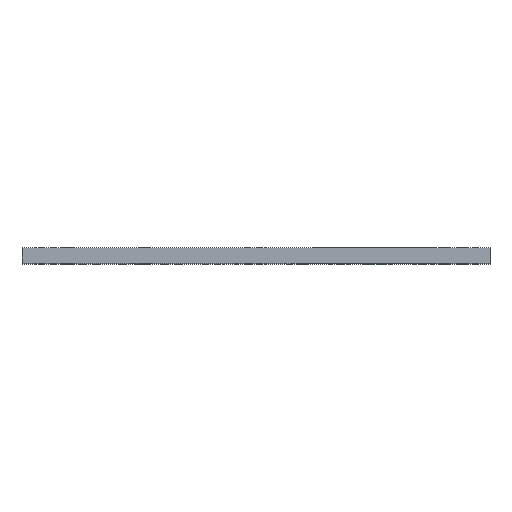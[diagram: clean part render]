
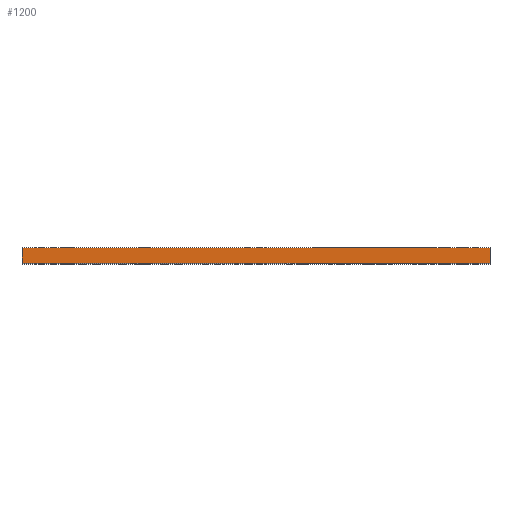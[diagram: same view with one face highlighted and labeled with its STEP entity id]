
A CAD part, top view. The second image highlights one B-rep face of the part: STEP entity #1200.
In plain terms, the highlighted planar face has unit normal (0, 0, 1).
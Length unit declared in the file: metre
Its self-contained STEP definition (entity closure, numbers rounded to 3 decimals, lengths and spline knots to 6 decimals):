
#63=LINE('',#1852,#103);
#80=LINE('',#1942,#120);
#88=LINE('',#2055,#128);
#90=LINE('',#2059,#130);
#103=VECTOR('',#1490,1.);
#120=VECTOR('',#1563,1.);
#128=VECTOR('',#1671,1.);
#130=VECTOR('',#1677,1.);
#277=ORIENTED_EDGE('',*,*,#485,.T.);
#278=ORIENTED_EDGE('',*,*,#542,.F.);
#279=ORIENTED_EDGE('',*,*,#441,.F.);
#280=ORIENTED_EDGE('',*,*,#544,.T.);
#441=EDGE_CURVE('',#579,#580,#63,.T.);
#485=EDGE_CURVE('',#624,#622,#80,.T.);
#542=EDGE_CURVE('',#580,#622,#88,.T.);
#544=EDGE_CURVE('',#579,#624,#90,.T.);
#579=VERTEX_POINT('',#1853);
#580=VERTEX_POINT('',#1854);
#622=VERTEX_POINT('',#1940);
#624=VERTEX_POINT('',#1943);
#876=EDGE_LOOP('',(#277,#278,#279,#280));
#1078=FACE_BOUND('',#876,.T.);
#1186=PLANE('',#1384);
#1200=ADVANCED_FACE('',(#1078),#1186,.F.);
#1384=AXIS2_PLACEMENT_3D('',#2060,#1678,#1679);
#1490=DIRECTION('',(1.,0.,0.));
#1563=DIRECTION('',(1.,0.,0.));
#1671=DIRECTION('',(0.,-1.,0.));
#1677=DIRECTION('',(0.,-1.,0.));
#1678=DIRECTION('',(0.,0.,-1.));
#1679=DIRECTION('',(-1.,0.,0.));
#1852=CARTESIAN_POINT('',(0.079109,0.004,0.06011));
#1853=CARTESIAN_POINT('',(-0.043891,0.004,0.06011));
#1854=CARTESIAN_POINT('',(0.079109,0.004,0.06011));
#1940=CARTESIAN_POINT('',(0.079109,0.,0.06011));
#1942=CARTESIAN_POINT('',(-0.039891,0.,0.06011));
#1943=CARTESIAN_POINT('',(-0.043891,0.,0.06011));
#2055=CARTESIAN_POINT('',(0.079109,0.004,0.06011));
#2059=CARTESIAN_POINT('',(-0.043891,0.004,0.06011));
#2060=CARTESIAN_POINT('',(-0.039891,0.004,0.06011));
